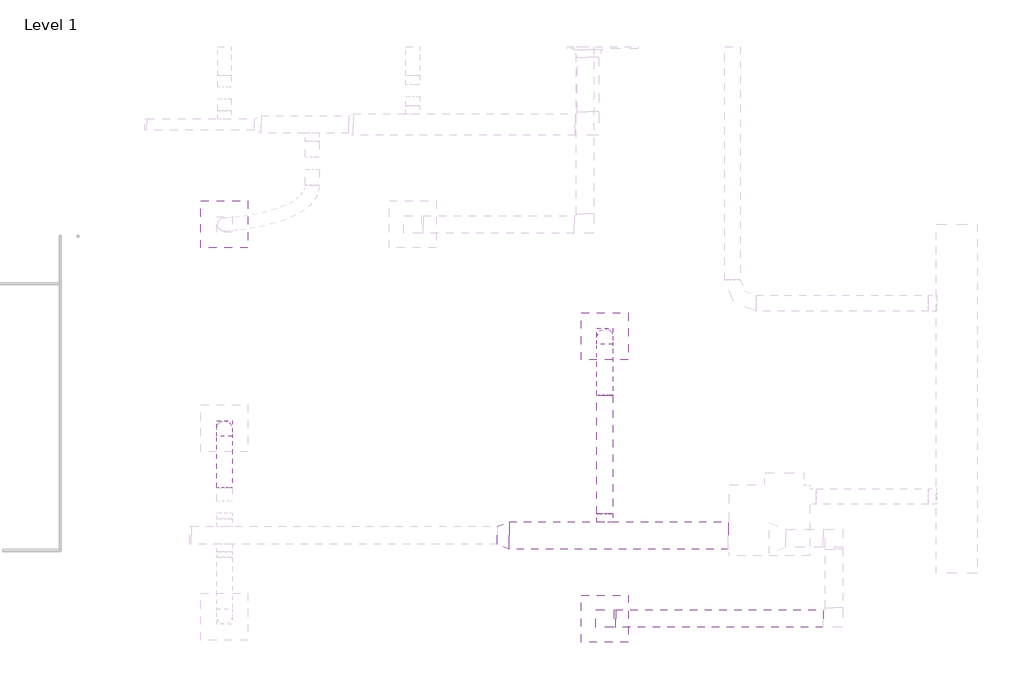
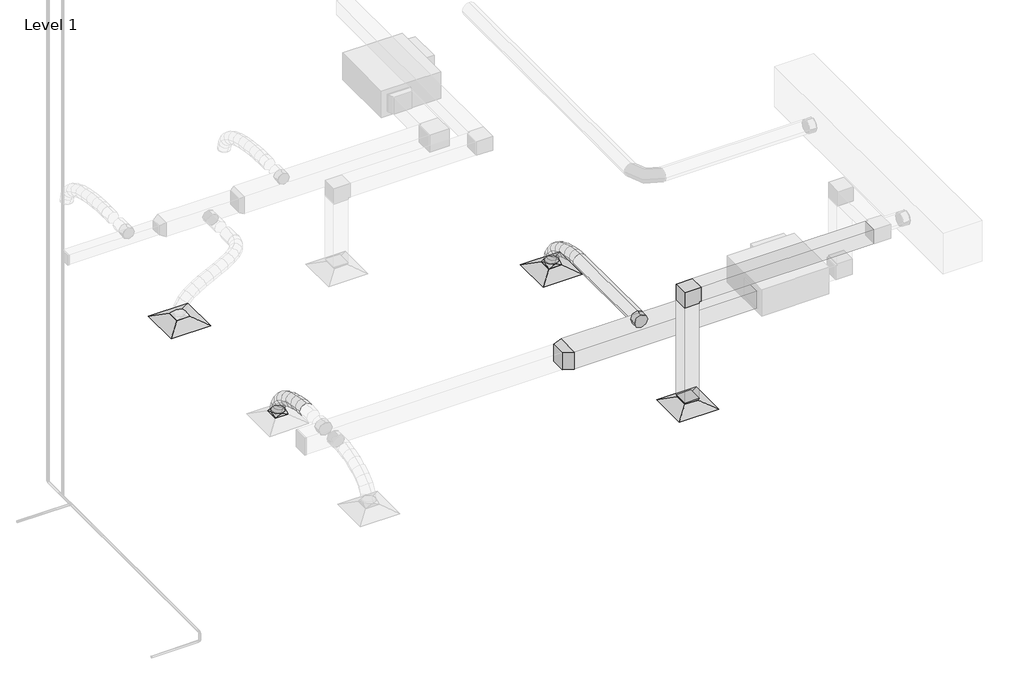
# One storey, part 3 of 7: 6 duct fittings, 6 duct segments, 3 air terminals.
"""IFC4 building model written with IfcOpenShell, lengths in millimetres."""

from ifc_helpers import new_model, si_unit, point, frame, frame_2d, origin, place, context, project, spatial, polyline, circle_curve, ellipse_curve, trimmed, segment, composite_curve, outline, extrude, transform, mapped, element, save
from ifc_brep_helpers import plane_surface, cylinder_surface, advanced_brep
from components import return_diffuser_24_x_24_face_8_x_8_connection_1cf4ec6c, return_diffuser_24_x_24_face_8_x_8_connection_c93705df, rectangular_elbow_mitered_standard_02695c2b, rectangular_transition_angle_45_degree_83d662b3, rectangular_transition_angle_45_degree_493713ce, rectangular_to_round_transition_angle_45_degree_5a025447, round_takeoff_standard_d3b0d0f9

model = new_model("IFC4")

# Units and contexts
model_context = context("Model", 3, world=origin())
ifc_project = project(units=[si_unit("LENGTHUNIT", "METRE", prefix="MILLI")], contexts=[model_context])

# Site, building, storey
site = spatial("IfcSite", under=ifc_project)
building = spatial("IfcBuilding", under=site)
storey = spatial("IfcBuildingStorey", under=building, Name="Level 1", Elevation=0.0)

# Air terminals
placement = place(None, origin())
return_diffuser_24_x_24_face_8_x_8_connection_shape = return_diffuser_24_x_24_face_8_x_8_connection_1cf4ec6c(model_context)
element("IfcAirTerminal", 1, ObjectType="Return Diffuser : 24 x 24 Face 8 x 8 Connection", at=placement, inside=storey, context=model_context, shape_type="MappedRepresentation", body=[
    mapped(return_diffuser_24_x_24_face_8_x_8_connection_shape, transform((-9692.725255, 8073.8737109, 2438.4), x_axis=(1.0, 0.0, 0.0), y_axis=(0.0, 1.0, 0.0), z_axis=(0.0, 0.0, 1.0))),
])
element("IfcAirTerminal", 2, ObjectType="Supply Diffuser : 24 x 24 Face 8 x 8 Connection", at=placement, inside=storey, context=model_context, shape_type="MappedRepresentation", body=[
    mapped(return_diffuser_24_x_24_face_8_x_8_connection_shape, transform((-14620.325255, 13180.8612109, 2438.4), x_axis=(1.0, 0.0, 0.0), y_axis=(0.0, 1.0, 0.0), z_axis=(0.0, 0.0, 1.0))),
])
return_diffuser_24_x_24_face_8_x_8_connection_2_shape = return_diffuser_24_x_24_face_8_x_8_connection_c93705df(model_context)
element("IfcAirTerminal", 3, ObjectType="Supply Diffuser : 24 x 24 Face 8 x 8 Connection", at=placement, inside=storey, context=model_context, shape_type="MappedRepresentation", body=[
    mapped(return_diffuser_24_x_24_face_8_x_8_connection_2_shape, transform((-9692.725255, 11731.4737109, 2438.4), x_axis=(1.0, 0.0, 0.0), y_axis=(0.0, 1.0, 0.0), z_axis=(0.0, 0.0, 1.0))),
])

# Duct fittings
rectangular_elbow_mitered_standard_shape = rectangular_elbow_mitered_standard_02695c2b(model_context)
element("IfcDuctFitting", 4, ObjectType="Rectangular Elbow - Mitered : Standard", at=placement, inside=storey, context=model_context, shape_type="MappedRepresentation", body=[
    mapped(rectangular_elbow_mitered_standard_shape, transform((-9692.725255, 8073.8737109, 4267.2), x_axis=(-1.0, 0.0, 0.0), y_axis=(0.0, 0.0, -1.0), z_axis=(0.0, -1.0, 0.0))),
])
rectangular_transition_angle_45_degree_shape = rectangular_transition_angle_45_degree_83d662b3(model_context)
element("IfcDuctFitting", 5, ObjectType="Rectangular Transition - Angle : 45 Degree", at=placement, inside=storey, context=model_context, shape_type="MappedRepresentation", body=[
    mapped(rectangular_transition_angle_45_degree_shape, transform((-9692.725255, 8073.8737109, 2571.143355), x_axis=(0.0, 0.0, -1.0), y_axis=(-1.0, 0.0, 0.0), z_axis=(0.0, 1.0, 0.0))),
])
rectangular_transition_angle_45_degree_2_shape = rectangular_transition_angle_45_degree_493713ce(model_context)
element("IfcDuctFitting", 6, ObjectType="Rectangular Transition - Angle : 45 Degree", at=placement, inside=storey, context=model_context, shape_type="MappedRepresentation", body=[
    mapped(rectangular_transition_angle_45_degree_2_shape, transform((-11083.4021344, 9153.5998073, 3048.0), x_axis=(1.0, 0.0, 0.0), y_axis=(0.0, 1.0, 0.0), z_axis=(0.0, 0.0, 1.0))),
])
rectangular_to_round_transition_angle_45_degree_shape = rectangular_to_round_transition_angle_45_degree_5a025447(model_context)
element("IfcDuctFitting", 7, ObjectType="Rectangular to Round Transition - Angle : 45 Degree", at=placement, inside=storey, context=model_context, shape_type="MappedRepresentation", body=[
    mapped(rectangular_to_round_transition_angle_45_degree_shape, transform((-14620.325255, 10539.2612109, 2540.0), x_axis=(0.0, 0.0, 1.0), y_axis=(-1.0, 0.0, 0.0), z_axis=(0.0, -1.0, 0.0))),
])
element("IfcDuctFitting", 8, ObjectType="Rectangular to Round Transition - Angle : 45 Degree", at=placement, inside=storey, context=model_context, shape_type="MappedRepresentation", body=[
    mapped(rectangular_to_round_transition_angle_45_degree_shape, transform((-9692.725255, 11731.4737109, 2540.0), x_axis=(0.0, 0.0, 1.0), y_axis=(-1.0, 0.0, 0.0), z_axis=(0.0, -1.0, 0.0))),
])
round_takeoff_standard_shape = round_takeoff_standard_d3b0d0f9(model_context)
element("IfcDuctFitting", 9, ObjectType="Round Takeoff : Standard", at=placement, inside=storey, context=model_context, shape_type="MappedRepresentation", body=[
    mapped(round_takeoff_standard_shape, transform((-9692.725255, 9331.3998073, 3048.0), x_axis=(0.0, 1.0, 0.0), y_axis=(1.0, 0.0, 0.0), z_axis=(0.0, 0.0, -1.0))),
])

# Duct segments
element("IfcDuctSegment", 10, ObjectType="Flex - Round", at=placement, inside=storey, context=model_context, shape_type="AdvancedBrep", body=[
    advanced_brep(
    [(-14518.725255, 10539.2612109, 2590.8), (-14620.325255, 10437.6612109, 2590.8), (-14721.925255, 10539.2612109, 2590.8), (-14620.325255, 10640.8612109, 2590.8), (-14518.725255, 10539.2612109, 2610.4697047), (-14620.325255, 10437.6612109, 2598.3124144), (-14721.925255, 10539.2612109, 2610.4697047), (-14620.325255, 10640.8612109, 2622.626995), (-14518.725255, 10518.5310786, 2695.8515957), (-14620.325255, 10423.650098, 2656.0204548), (-14721.925255, 10518.5310786, 2695.8515957), (-14620.325255, 10613.4120592, 2735.6827365), (-14518.725255, 10461.3436602, 2787.7324467), (-14620.325255, 10382.5248355, 2722.0948506), (-14721.925255, 10461.3436602, 2787.7324467), (-14620.325255, 10540.1624848, 2853.3700428), (-14518.725255, 10375.2034234, 2866.1848403), (-14620.325255, 10314.2087929, 2784.3138235), (-14721.925255, 10375.2034234, 2866.1848403), (-14620.325255, 10436.1980538, 2948.0558571), (-14518.725255, 10267.6148358, 2930.9510637), (-14620.325255, 10221.5720169, 2840.0793491), (-14721.925255, 10267.6148358, 2930.9510637), (-14620.325255, 10313.6576548, 3021.8227783), (-14518.725255, 10146.0823654, 2981.7734042), (-14620.325255, 10112.3915687, 2885.7363319), (-14721.925255, 10146.0823654, 2981.7734042), (-14620.325255, 10179.773162, 3077.8104765), (-14518.725255, 10018.1104796, 3018.3941489), (-14620.325255, 9995.3318541, 2919.2344233), (-14721.925255, 10018.1104796, 3018.3941489), (-14620.325255, 10040.8891051, 3117.5538745), (-14518.725255, 9891.2036464, 3040.5555851), (-14620.325255, 9879.0600282, 2939.5386936), (-14721.925255, 9891.2036464, 3040.5555851), (-14620.325255, 9903.3472646, 3141.5724766), (-14518.725255, 9779.2452204, 3048.0), (-14620.325255, 9775.871118, 2946.4), (-14721.925255, 9779.2452204, 3048.0), (-14620.325255, 9782.6193228, 3149.6), (-14518.725255, 9772.8663333, 3048.0), (-14620.325255, 9772.8663333, 2946.4), (-14721.925255, 9772.8663333, 3048.0), (-14620.325255, 9772.8663333, 3149.6)],
    [
        (0, 1, circle_curve(frame((-14620.325255, 10539.2612109, 2590.8), z_axis=(0.0, 0.0, -1.0), x_axis=(1.0, 0.0, 0.0)), 101.6)),
        (1, 2, circle_curve(frame((-14620.325255, 10539.2612109, 2590.8), z_axis=(0.0, 0.0, -1.0), x_axis=(1.0, 0.0, 0.0)), 101.6)),
        (2, 3, circle_curve(frame((-14620.325255, 10539.2612109, 2590.8), z_axis=(0.0, 0.0, -1.0), x_axis=(1.0, 0.0, 0.0)), 101.6)),
        (3, 0, circle_curve(frame((-14620.325255, 10539.2612109, 2590.8), z_axis=(0.0, 0.0, -1.0), x_axis=(1.0, 0.0, 0.0)), 101.6)),
        (0, 4),
        (4, 5, ellipse_curve(frame((-14620.325255, 10539.2612109, 2610.4697047), z_axis=(0.0, 0.11881081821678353, -0.9929169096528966), x_axis=(0.0, -0.9929169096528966, -0.11881081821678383)), 102.3247756, 101.6)),
        (5, 1),
        (5, 6, ellipse_curve(frame((-14620.325255, 10539.2612109, 2610.4697047), z_axis=(0.0, 0.11881081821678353, -0.9929169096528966), x_axis=(0.0, -0.9929169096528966, -0.11881081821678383)), 102.3247756, 101.6)),
        (6, 2),
        (6, 7, ellipse_curve(frame((-14620.325255, 10539.2612109, 2610.4697047), z_axis=(0.0, 0.11881081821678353, -0.9929169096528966), x_axis=(0.0, -0.9929169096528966, -0.11881081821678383)), 102.3247756, 101.6)),
        (7, 3),
        (7, 4, ellipse_curve(frame((-14620.325255, 10539.2612109, 2610.4697047), z_axis=(0.0, 0.11881081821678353, -0.9929169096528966), x_axis=(0.0, -0.9929169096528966, -0.11881081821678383)), 102.3247756, 101.6)),
        (4, 8),
        (8, 9, ellipse_curve(frame((-14620.325255, 10518.5310786, 2695.8515957), z_axis=(0.0, 0.38707659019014, -0.9220475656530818), x_axis=(0.0, -0.9220475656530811, -0.3870765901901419)), 102.9024794, 101.6)),
        (9, 5),
        (9, 10, ellipse_curve(frame((-14620.325255, 10518.5310786, 2695.8515957), z_axis=(0.0, 0.38707659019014, -0.9220475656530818), x_axis=(0.0, -0.9220475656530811, -0.3870765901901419)), 102.9024794, 101.6)),
        (10, 6),
        (10, 11, ellipse_curve(frame((-14620.325255, 10518.5310786, 2695.8515957), z_axis=(0.0, 0.38707659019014, -0.9220475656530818), x_axis=(0.0, -0.9220475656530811, -0.3870765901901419)), 102.9024794, 101.6)),
        (11, 7),
        (11, 8, ellipse_curve(frame((-14620.325255, 10518.5310786, 2695.8515957), z_axis=(0.0, 0.38707659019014, -0.9220475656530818), x_axis=(0.0, -0.9220475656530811, -0.3870765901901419)), 102.9024794, 101.6)),
        (8, 12),
        (12, 13, ellipse_curve(frame((-14620.325255, 10461.3436602, 2787.7324467), z_axis=(0.0, 0.6399268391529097, -0.7684358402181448), x_axis=(0.0, -0.7684358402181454, -0.6399268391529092)), 102.5704692, 101.6)),
        (13, 9),
        (13, 14, ellipse_curve(frame((-14620.325255, 10461.3436602, 2787.7324467), z_axis=(0.0, 0.6399268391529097, -0.7684358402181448), x_axis=(0.0, -0.7684358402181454, -0.6399268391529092)), 102.5704692, 101.6)),
        (14, 10),
        (14, 15, ellipse_curve(frame((-14620.325255, 10461.3436602, 2787.7324467), z_axis=(0.0, 0.6399268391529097, -0.7684358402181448), x_axis=(0.0, -0.7684358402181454, -0.6399268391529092)), 102.5704692, 101.6)),
        (15, 11),
        (15, 12, ellipse_curve(frame((-14620.325255, 10461.3436602, 2787.7324467), z_axis=(0.0, 0.6399268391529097, -0.7684358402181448), x_axis=(0.0, -0.7684358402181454, -0.6399268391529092)), 102.5704692, 101.6)),
        (12, 16),
        (16, 17, ellipse_curve(frame((-14620.325255, 10375.2034234, 2866.1848403), z_axis=(0.0, 0.8019171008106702, -0.5974353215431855), x_axis=(0.0, -0.5974353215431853, -0.8019171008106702)), 102.0941151, 101.6)),
        (17, 13),
        (17, 18, ellipse_curve(frame((-14620.325255, 10375.2034234, 2866.1848403), z_axis=(0.0, 0.8019171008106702, -0.5974353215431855), x_axis=(0.0, -0.5974353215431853, -0.8019171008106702)), 102.0941151, 101.6)),
        (18, 14),
        (18, 19, ellipse_curve(frame((-14620.325255, 10375.2034234, 2866.1848403), z_axis=(0.0, 0.8019171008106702, -0.5974353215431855), x_axis=(0.0, -0.5974353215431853, -0.8019171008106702)), 102.0941151, 101.6)),
        (19, 15),
        (19, 16, ellipse_curve(frame((-14620.325255, 10375.2034234, 2866.1848403), z_axis=(0.0, 0.8019171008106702, -0.5974353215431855), x_axis=(0.0, -0.5974353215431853, -0.8019171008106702)), 102.0941151, 101.6)),
        (16, 20),
        (20, 21, ellipse_curve(frame((-14620.325255, 10267.6148358, 2930.9510637), z_axis=(0.0, 0.892031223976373, -0.4519737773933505), x_axis=(0.0, -0.4519737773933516, -0.8920312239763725)), 101.8705536, 101.6)),
        (21, 17),
        (21, 22, ellipse_curve(frame((-14620.325255, 10267.6148358, 2930.9510637), z_axis=(0.0, 0.892031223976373, -0.4519737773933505), x_axis=(0.0, -0.4519737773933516, -0.8920312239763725)), 101.8705536, 101.6)),
        (22, 18),
        (22, 23, ellipse_curve(frame((-14620.325255, 10267.6148358, 2930.9510637), z_axis=(0.0, 0.892031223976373, -0.4519737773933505), x_axis=(0.0, -0.4519737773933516, -0.8920312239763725)), 101.8705536, 101.6)),
        (23, 19),
        (23, 20, ellipse_curve(frame((-14620.325255, 10267.6148358, 2930.9510637), z_axis=(0.0, 0.892031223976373, -0.4519737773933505), x_axis=(0.0, -0.4519737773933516, -0.8920312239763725)), 101.8705536, 101.6)),
        (20, 24),
        (24, 25, ellipse_curve(frame((-14620.325255, 10146.0823654, 2981.7734042), z_axis=(0.0, 0.94361969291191, -0.3310315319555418), x_axis=(0.0, -0.33103153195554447, -0.943619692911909)), 101.7751887, 101.6)),
        (25, 21),
        (25, 26, ellipse_curve(frame((-14620.325255, 10146.0823654, 2981.7734042), z_axis=(0.0, 0.94361969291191, -0.3310315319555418), x_axis=(0.0, -0.33103153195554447, -0.943619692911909)), 101.7751887, 101.6)),
        (26, 22),
        (26, 27, ellipse_curve(frame((-14620.325255, 10146.0823654, 2981.7734042), z_axis=(0.0, 0.94361969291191, -0.3310315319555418), x_axis=(0.0, -0.33103153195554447, -0.943619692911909)), 101.7751887, 101.6)),
        (27, 23),
        (27, 24, ellipse_curve(frame((-14620.325255, 10146.0823654, 2981.7734042), z_axis=(0.0, 0.94361969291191, -0.3310315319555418), x_axis=(0.0, -0.33103153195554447, -0.943619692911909)), 101.7751887, 101.6)),
        (24, 28),
        (28, 29, ellipse_curve(frame((-14620.325255, 10018.1104796, 3018.3941489), z_axis=(0.0, 0.974615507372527, -0.22388526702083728), x_axis=(0.0, -0.22388526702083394, -0.9746155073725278)), 101.7424049, 101.6)),
        (29, 25),
        (29, 30, ellipse_curve(frame((-14620.325255, 10018.1104796, 3018.3941489), z_axis=(0.0, 0.974615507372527, -0.22388526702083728), x_axis=(0.0, -0.22388526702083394, -0.9746155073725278)), 101.7424049, 101.6)),
        (30, 26),
        (30, 31, ellipse_curve(frame((-14620.325255, 10018.1104796, 3018.3941489), z_axis=(0.0, 0.974615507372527, -0.22388526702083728), x_axis=(0.0, -0.22388526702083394, -0.9746155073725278)), 101.7424049, 101.6)),
        (31, 27),
        (31, 28, ellipse_curve(frame((-14620.325255, 10018.1104796, 3018.3941489), z_axis=(0.0, 0.974615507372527, -0.22388526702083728), x_axis=(0.0, -0.22388526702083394, -0.9746155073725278)), 101.7424049, 101.6)),
        (28, 32),
        (32, 33, ellipse_curve(frame((-14620.325255, 9891.2036464, 3040.5555851), z_axis=(0.0, 0.9928517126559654, -0.11935441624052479), x_axis=(0.0, -0.11935441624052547, -0.9928517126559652)), 101.7441882, 101.6)),
        (33, 29),
        (33, 34, ellipse_curve(frame((-14620.325255, 9891.2036464, 3040.5555851), z_axis=(0.0, 0.9928517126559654, -0.11935441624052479), x_axis=(0.0, -0.11935441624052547, -0.9928517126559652)), 101.7441882, 101.6)),
        (34, 30),
        (34, 35, ellipse_curve(frame((-14620.325255, 9891.2036464, 3040.5555851), z_axis=(0.0, 0.9928517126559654, -0.11935441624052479), x_axis=(0.0, -0.11935441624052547, -0.9928517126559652)), 101.7441882, 101.6)),
        (35, 31),
        (35, 32, ellipse_curve(frame((-14620.325255, 9891.2036464, 3040.5555851), z_axis=(0.0, 0.9928517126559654, -0.11935441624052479), x_axis=(0.0, -0.11935441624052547, -0.9928517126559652)), 101.7441882, 101.6)),
        (32, 36),
        (36, 37, ellipse_curve(frame((-14620.325255, 9779.2452204, 3048.0), z_axis=(0.0, 0.9994490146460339, -0.03319137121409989), x_axis=(0.0, -0.03319137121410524, -0.9994490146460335)), 101.656011, 101.6)),
        (37, 33),
        (37, 38, ellipse_curve(frame((-14620.325255, 9779.2452204, 3048.0), z_axis=(0.0, 0.9994490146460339, -0.03319137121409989), x_axis=(0.0, -0.03319137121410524, -0.9994490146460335)), 101.656011, 101.6)),
        (38, 34),
        (38, 39, ellipse_curve(frame((-14620.325255, 9779.2452204, 3048.0), z_axis=(0.0, 0.9994490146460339, -0.03319137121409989), x_axis=(0.0, -0.03319137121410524, -0.9994490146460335)), 101.656011, 101.6)),
        (39, 35),
        (39, 36, ellipse_curve(frame((-14620.325255, 9779.2452204, 3048.0), z_axis=(0.0, 0.9994490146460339, -0.03319137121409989), x_axis=(0.0, -0.03319137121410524, -0.9994490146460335)), 101.656011, 101.6)),
        (36, 40),
        (40, 41, circle_curve(frame((-14620.325255, 9772.8663333, 3048.0), z_axis=(0.0, 1.0, 0.0), x_axis=(1.0, 0.0, 0.0)), 101.6)),
        (41, 37),
        (41, 42, circle_curve(frame((-14620.325255, 9772.8663333, 3048.0), z_axis=(0.0, 1.0, 0.0), x_axis=(1.0, 0.0, 0.0)), 101.6)),
        (42, 38),
        (42, 43, circle_curve(frame((-14620.325255, 9772.8663333, 3048.0), z_axis=(0.0, 1.0, 0.0), x_axis=(1.0, 0.0, 0.0)), 101.6)),
        (43, 39),
        (43, 40, circle_curve(frame((-14620.325255, 9772.8663333, 3048.0), z_axis=(0.0, 1.0, 0.0), x_axis=(1.0, 0.0, 0.0)), 101.6)),
    ],
    [
        plane_surface(frame((-14620.325255, 10437.6612109, 2590.8), z_axis=(0.0, 0.0, -1.0), x_axis=(1.0, 0.0, 0.0))),
        cylinder_surface(frame((-14620.325255, 10539.2612109, 2590.8), z_axis=(0.0, 0.0, -1.0), x_axis=(1.0, 0.0, 0.0)), 101.6),
        cylinder_surface(frame((-14620.325255, 10539.2612109, 2610.4697047), z_axis=(0.0, 0.23593854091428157, -0.9717679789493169), x_axis=(1.0, 0.0, 0.0)), 101.6),
        cylinder_surface(frame((-14620.325255, 10518.5310786, 2695.8515957), z_axis=(0.0, 0.5284158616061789, -0.8489856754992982), x_axis=(1.0, 0.0, 0.0)), 101.6),
        cylinder_surface(frame((-14620.325255, 10461.3436602, 2787.7324467), z_axis=(0.0, 0.7393284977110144, -0.6733449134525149), x_axis=(1.0, 0.0, 0.0)), 101.6),
        cylinder_surface(frame((-14620.325255, 10375.2034234, 2866.1848403), z_axis=(0.0, 0.8567434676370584, -0.5157427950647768), x_axis=(1.0, 0.0, 0.0)), 101.6),
        cylinder_surface(frame((-14620.325255, 10267.6148358, 2930.9510637), z_axis=(0.0, 0.9225807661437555, -0.385804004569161), x_axis=(1.0, 0.0, 0.0)), 101.6),
        cylinder_surface(frame((-14620.325255, 10146.0823654, 2981.7734042), z_axis=(0.0, 0.9614100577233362, -0.2751194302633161), x_axis=(1.0, 0.0, 0.0)), 101.6),
        cylinder_surface(frame((-14620.325255, 10018.1104796, 3018.3941489), z_axis=(0.0, 0.9850926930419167, -0.17202437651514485), x_axis=(1.0, 0.0, 0.0)), 101.6),
        cylinder_surface(frame((-14620.325255, 9891.2036464, 3040.5555851), z_axis=(0.0, 0.9977966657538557, -0.0663461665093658), x_axis=(1.0, 0.0, 0.0)), 101.6),
        cylinder_surface(frame((-14620.325255, 9779.2452204, 3048.0), z_axis=(0.0, 1.0, 0.0), x_axis=(1.0, 0.0, 0.0)), 101.6),
        plane_surface(frame((-14721.925255, 9772.8663333, 3048.0), z_axis=(0.0, -1.0, 0.0), x_axis=(0.0, 0.0, -1.0))),
    ],
    [
        (0, [[1, 2, 3, 4]]),
        (1, [[-1, 5, 6, 7]]),
        (1, [[-2, -7, 8, 9]]),
        (1, [[-3, -9, 10, 11]]),
        (1, [[-4, -11, 12, -5]]),
        (2, [[-6, 13, 14, 15]]),
        (2, [[-8, -15, 16, 17]]),
        (2, [[-10, -17, 18, 19]]),
        (2, [[-12, -19, 20, -13]]),
        (3, [[-14, 21, 22, 23]]),
        (3, [[-16, -23, 24, 25]]),
        (3, [[-18, -25, 26, 27]]),
        (3, [[-20, -27, 28, -21]]),
        (4, [[-22, 29, 30, 31]]),
        (4, [[-24, -31, 32, 33]]),
        (4, [[-26, -33, 34, 35]]),
        (4, [[-28, -35, 36, -29]]),
        (5, [[-30, 37, 38, 39]]),
        (5, [[-32, -39, 40, 41]]),
        (5, [[-34, -41, 42, 43]]),
        (5, [[-36, -43, 44, -37]]),
        (6, [[-38, 45, 46, 47]]),
        (6, [[-40, -47, 48, 49]]),
        (6, [[-42, -49, 50, 51]]),
        (6, [[-44, -51, 52, -45]]),
        (7, [[-46, 53, 54, 55]]),
        (7, [[-48, -55, 56, 57]]),
        (7, [[-50, -57, 58, 59]]),
        (7, [[-52, -59, 60, -53]]),
        (8, [[-54, 61, 62, 63]]),
        (8, [[-56, -63, 64, 65]]),
        (8, [[-58, -65, 66, 67]]),
        (8, [[-60, -67, 68, -61]]),
        (9, [[-62, 69, 70, 71]]),
        (9, [[-64, -71, 72, 73]]),
        (9, [[-66, -73, 74, 75]]),
        (9, [[-68, -75, 76, -69]]),
        (10, [[-70, 77, 78, 79]]),
        (10, [[-72, -79, 80, 81]]),
        (10, [[-74, -81, 82, 83]]),
        (10, [[-76, -83, 84, -77]]),
        (11, [[-84, -82, -80, -78]]),
    ],
),
])
element("IfcDuctSegment", 11, ObjectType="Flex - Round", at=placement, inside=storey, context=model_context, shape_type="AdvancedBrep", body=[
    advanced_brep(
    [(-9591.125255, 11731.4737109, 2590.8), (-9692.725255, 11629.8737109, 2590.8), (-9794.325255, 11731.4737109, 2590.8), (-9692.725255, 11833.0737109, 2590.8), (-9591.125255, 11731.4737109, 2610.4697047), (-9692.725255, 11629.8737109, 2598.3124144), (-9794.325255, 11731.4737109, 2610.4697047), (-9692.725255, 11833.0737109, 2622.626995), (-9591.125255, 11710.7435786, 2695.8515957), (-9692.725255, 11615.862598, 2656.0204548), (-9794.325255, 11710.7435786, 2695.8515957), (-9692.725255, 11805.6245592, 2735.6827365), (-9591.125255, 11653.5561602, 2787.7324467), (-9692.725255, 11574.7373355, 2722.0948506), (-9794.325255, 11653.5561602, 2787.7324467), (-9692.725255, 11732.3749848, 2853.3700428), (-9591.125255, 11567.4159234, 2866.1848403), (-9692.725255, 11506.4212929, 2784.3138235), (-9794.325255, 11567.4159234, 2866.1848403), (-9692.725255, 11628.4105538, 2948.0558571), (-9591.125255, 11459.8273358, 2930.9510637), (-9692.725255, 11413.7845169, 2840.0793491), (-9794.325255, 11459.8273358, 2930.9510637), (-9692.725255, 11505.8701548, 3021.8227783), (-9591.125255, 11338.2948654, 2981.7734042), (-9692.725255, 11304.6040687, 2885.7363319), (-9794.325255, 11338.2948654, 2981.7734042), (-9692.725255, 11371.985662, 3077.8104765), (-9591.125255, 11210.3229796, 3018.3941489), (-9692.725255, 11187.5443541, 2919.2344233), (-9794.325255, 11210.3229796, 3018.3941489), (-9692.725255, 11233.1016051, 3117.5538745), (-9591.125255, 11083.4161464, 3040.5555851), (-9692.725255, 11071.2725282, 2939.5386936), (-9794.325255, 11083.4161464, 3040.5555851), (-9692.725255, 11095.5597646, 3141.5724766), (-9591.125255, 10971.4577204, 3048.0), (-9692.725255, 10968.083618, 2946.4), (-9794.325255, 10971.4577204, 3048.0), (-9692.725255, 10974.8318228, 3149.6), (-9591.125255, 10965.0788333, 3048.0), (-9692.725255, 10965.0788333, 2946.4), (-9794.325255, 10965.0788333, 3048.0), (-9692.725255, 10965.0788333, 3149.6)],
    [
        (0, 1, circle_curve(frame((-9692.725255, 11731.4737109, 2590.8), z_axis=(0.0, 0.0, -1.0), x_axis=(1.0, 0.0, 0.0)), 101.6)),
        (1, 2, circle_curve(frame((-9692.725255, 11731.4737109, 2590.8), z_axis=(0.0, 0.0, -1.0), x_axis=(1.0, 0.0, 0.0)), 101.6)),
        (2, 3, circle_curve(frame((-9692.725255, 11731.4737109, 2590.8), z_axis=(0.0, 0.0, -1.0), x_axis=(1.0, 0.0, 0.0)), 101.6)),
        (3, 0, circle_curve(frame((-9692.725255, 11731.4737109, 2590.8), z_axis=(0.0, 0.0, -1.0), x_axis=(1.0, 0.0, 0.0)), 101.6)),
        (0, 4),
        (4, 5, ellipse_curve(frame((-9692.725255, 11731.4737109, 2610.4697047), z_axis=(0.0, 0.11881081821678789, -0.9929169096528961), x_axis=(0.0, -0.9929169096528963, -0.11881081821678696)), 102.3247756, 101.6)),
        (5, 1),
        (5, 6, ellipse_curve(frame((-9692.725255, 11731.4737109, 2610.4697047), z_axis=(0.0, 0.11881081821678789, -0.9929169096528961), x_axis=(0.0, -0.9929169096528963, -0.11881081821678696)), 102.3247756, 101.6)),
        (6, 2),
        (6, 7, ellipse_curve(frame((-9692.725255, 11731.4737109, 2610.4697047), z_axis=(0.0, 0.11881081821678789, -0.9929169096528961), x_axis=(0.0, -0.9929169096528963, -0.11881081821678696)), 102.3247756, 101.6)),
        (7, 3),
        (7, 4, ellipse_curve(frame((-9692.725255, 11731.4737109, 2610.4697047), z_axis=(0.0, 0.11881081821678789, -0.9929169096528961), x_axis=(0.0, -0.9929169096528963, -0.11881081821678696)), 102.3247756, 101.6)),
        (4, 8),
        (8, 9, ellipse_curve(frame((-9692.725255, 11710.7435786, 2695.8515957), z_axis=(0.0, 0.38707659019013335, -0.9220475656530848), x_axis=(0.0, -0.9220475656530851, -0.38707659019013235)), 102.9024794, 101.6)),
        (9, 5),
        (9, 10, ellipse_curve(frame((-9692.725255, 11710.7435786, 2695.8515957), z_axis=(0.0, 0.38707659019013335, -0.9220475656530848), x_axis=(0.0, -0.9220475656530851, -0.38707659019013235)), 102.9024794, 101.6)),
        (10, 6),
        (10, 11, ellipse_curve(frame((-9692.725255, 11710.7435786, 2695.8515957), z_axis=(0.0, 0.38707659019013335, -0.9220475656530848), x_axis=(0.0, -0.9220475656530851, -0.38707659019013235)), 102.9024794, 101.6)),
        (11, 7),
        (11, 8, ellipse_curve(frame((-9692.725255, 11710.7435786, 2695.8515957), z_axis=(0.0, 0.38707659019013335, -0.9220475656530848), x_axis=(0.0, -0.9220475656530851, -0.38707659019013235)), 102.9024794, 101.6)),
        (8, 12),
        (12, 13, ellipse_curve(frame((-9692.725255, 11653.5561602, 2787.7324467), z_axis=(0.0, 0.6399268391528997, -0.7684358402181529), x_axis=(0.0, -0.7684358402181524, -0.6399268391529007)), 102.5704692, 101.6)),
        (13, 9),
        (13, 14, ellipse_curve(frame((-9692.725255, 11653.5561602, 2787.7324467), z_axis=(0.0, 0.6399268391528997, -0.7684358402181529), x_axis=(0.0, -0.7684358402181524, -0.6399268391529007)), 102.5704692, 101.6)),
        (14, 10),
        (14, 15, ellipse_curve(frame((-9692.725255, 11653.5561602, 2787.7324467), z_axis=(0.0, 0.6399268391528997, -0.7684358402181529), x_axis=(0.0, -0.7684358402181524, -0.6399268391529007)), 102.5704692, 101.6)),
        (15, 11),
        (15, 12, ellipse_curve(frame((-9692.725255, 11653.5561602, 2787.7324467), z_axis=(0.0, 0.6399268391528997, -0.7684358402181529), x_axis=(0.0, -0.7684358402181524, -0.6399268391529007)), 102.5704692, 101.6)),
        (12, 16),
        (16, 17, ellipse_curve(frame((-9692.725255, 11567.4159234, 2866.1848403), z_axis=(0.0, 0.8019171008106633, -0.5974353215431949), x_axis=(0.0, -0.597435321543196, -0.8019171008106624)), 102.0941151, 101.6)),
        (17, 13),
        (17, 18, ellipse_curve(frame((-9692.725255, 11567.4159234, 2866.1848403), z_axis=(0.0, 0.8019171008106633, -0.5974353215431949), x_axis=(0.0, -0.597435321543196, -0.8019171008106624)), 102.0941151, 101.6)),
        (18, 14),
        (18, 19, ellipse_curve(frame((-9692.725255, 11567.4159234, 2866.1848403), z_axis=(0.0, 0.8019171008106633, -0.5974353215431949), x_axis=(0.0, -0.597435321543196, -0.8019171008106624)), 102.0941151, 101.6)),
        (19, 15),
        (19, 16, ellipse_curve(frame((-9692.725255, 11567.4159234, 2866.1848403), z_axis=(0.0, 0.8019171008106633, -0.5974353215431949), x_axis=(0.0, -0.597435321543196, -0.8019171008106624)), 102.0941151, 101.6)),
        (16, 20),
        (20, 21, ellipse_curve(frame((-9692.725255, 11459.8273358, 2930.9510637), z_axis=(0.0, 0.8920312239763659, -0.4519737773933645), x_axis=(0.0, -0.45197377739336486, -0.8920312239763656)), 101.8705536, 101.6)),
        (21, 17),
        (21, 22, ellipse_curve(frame((-9692.725255, 11459.8273358, 2930.9510637), z_axis=(0.0, 0.8920312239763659, -0.4519737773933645), x_axis=(0.0, -0.45197377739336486, -0.8920312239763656)), 101.8705536, 101.6)),
        (22, 18),
        (22, 23, ellipse_curve(frame((-9692.725255, 11459.8273358, 2930.9510637), z_axis=(0.0, 0.8920312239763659, -0.4519737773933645), x_axis=(0.0, -0.45197377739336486, -0.8920312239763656)), 101.8705536, 101.6)),
        (23, 19),
        (23, 20, ellipse_curve(frame((-9692.725255, 11459.8273358, 2930.9510637), z_axis=(0.0, 0.8920312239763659, -0.4519737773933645), x_axis=(0.0, -0.45197377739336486, -0.8920312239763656)), 101.8705536, 101.6)),
        (20, 24),
        (24, 25, ellipse_curve(frame((-9692.725255, 11338.2948654, 2981.7734042), z_axis=(0.0, 0.9436196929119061, -0.3310315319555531), x_axis=(0.0, -0.3310315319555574, -0.9436196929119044)), 101.7751887, 101.6)),
        (25, 21),
        (25, 26, ellipse_curve(frame((-9692.725255, 11338.2948654, 2981.7734042), z_axis=(0.0, 0.9436196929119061, -0.3310315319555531), x_axis=(0.0, -0.3310315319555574, -0.9436196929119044)), 101.7751887, 101.6)),
        (26, 22),
        (26, 27, ellipse_curve(frame((-9692.725255, 11338.2948654, 2981.7734042), z_axis=(0.0, 0.9436196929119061, -0.3310315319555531), x_axis=(0.0, -0.3310315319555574, -0.9436196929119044)), 101.7751887, 101.6)),
        (27, 23),
        (27, 24, ellipse_curve(frame((-9692.725255, 11338.2948654, 2981.7734042), z_axis=(0.0, 0.9436196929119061, -0.3310315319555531), x_axis=(0.0, -0.3310315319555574, -0.9436196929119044)), 101.7751887, 101.6)),
        (24, 28),
        (28, 29, ellipse_curve(frame((-9692.725255, 11210.3229796, 3018.3941489), z_axis=(0.0, 0.9746155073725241, -0.2238852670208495), x_axis=(0.0, -0.22388526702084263, -0.9746155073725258)), 101.7424049, 101.6)),
        (29, 25),
        (29, 30, ellipse_curve(frame((-9692.725255, 11210.3229796, 3018.3941489), z_axis=(0.0, 0.9746155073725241, -0.2238852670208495), x_axis=(0.0, -0.22388526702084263, -0.9746155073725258)), 101.7424049, 101.6)),
        (30, 26),
        (30, 31, ellipse_curve(frame((-9692.725255, 11210.3229796, 3018.3941489), z_axis=(0.0, 0.9746155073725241, -0.2238852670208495), x_axis=(0.0, -0.22388526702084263, -0.9746155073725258)), 101.7424049, 101.6)),
        (31, 27),
        (31, 28, ellipse_curve(frame((-9692.725255, 11210.3229796, 3018.3941489), z_axis=(0.0, 0.9746155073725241, -0.2238852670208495), x_axis=(0.0, -0.22388526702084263, -0.9746155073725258)), 101.7424049, 101.6)),
        (28, 32),
        (32, 33, ellipse_curve(frame((-9692.725255, 11083.4161464, 3040.5555851), z_axis=(0.0, 0.9928517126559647, -0.11935441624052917), x_axis=(0.0, -0.11935441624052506, -0.9928517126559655)), 101.7441882, 101.6)),
        (33, 29),
        (33, 34, ellipse_curve(frame((-9692.725255, 11083.4161464, 3040.5555851), z_axis=(0.0, 0.9928517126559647, -0.11935441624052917), x_axis=(0.0, -0.11935441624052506, -0.9928517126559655)), 101.7441882, 101.6)),
        (34, 30),
        (34, 35, ellipse_curve(frame((-9692.725255, 11083.4161464, 3040.5555851), z_axis=(0.0, 0.9928517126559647, -0.11935441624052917), x_axis=(0.0, -0.11935441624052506, -0.9928517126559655)), 101.7441882, 101.6)),
        (35, 31),
        (35, 32, ellipse_curve(frame((-9692.725255, 11083.4161464, 3040.5555851), z_axis=(0.0, 0.9928517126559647, -0.11935441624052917), x_axis=(0.0, -0.11935441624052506, -0.9928517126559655)), 101.7441882, 101.6)),
        (32, 36),
        (36, 37, ellipse_curve(frame((-9692.725255, 10971.4577204, 3048.0), z_axis=(0.0, 0.9994490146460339, -0.033191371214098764), x_axis=(0.0, -0.033191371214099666, -0.9994490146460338)), 101.656011, 101.6)),
        (37, 33),
        (37, 38, ellipse_curve(frame((-9692.725255, 10971.4577204, 3048.0), z_axis=(0.0, 0.9994490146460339, -0.033191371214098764), x_axis=(0.0, -0.033191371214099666, -0.9994490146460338)), 101.656011, 101.6)),
        (38, 34),
        (38, 39, ellipse_curve(frame((-9692.725255, 10971.4577204, 3048.0), z_axis=(0.0, 0.9994490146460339, -0.033191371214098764), x_axis=(0.0, -0.033191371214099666, -0.9994490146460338)), 101.656011, 101.6)),
        (39, 35),
        (39, 36, ellipse_curve(frame((-9692.725255, 10971.4577204, 3048.0), z_axis=(0.0, 0.9994490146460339, -0.033191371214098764), x_axis=(0.0, -0.033191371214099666, -0.9994490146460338)), 101.656011, 101.6)),
        (36, 40),
        (40, 41, circle_curve(frame((-9692.725255, 10965.0788333, 3048.0), z_axis=(0.0, 1.0, 0.0), x_axis=(1.0, 0.0, 0.0)), 101.6)),
        (41, 37),
        (41, 42, circle_curve(frame((-9692.725255, 10965.0788333, 3048.0), z_axis=(0.0, 1.0, 0.0), x_axis=(1.0, 0.0, 0.0)), 101.6)),
        (42, 38),
        (42, 43, circle_curve(frame((-9692.725255, 10965.0788333, 3048.0), z_axis=(0.0, 1.0, 0.0), x_axis=(1.0, 0.0, 0.0)), 101.6)),
        (43, 39),
        (43, 40, circle_curve(frame((-9692.725255, 10965.0788333, 3048.0), z_axis=(0.0, 1.0, 0.0), x_axis=(1.0, 0.0, 0.0)), 101.6)),
    ],
    [
        plane_surface(frame((-9692.725255, 11629.8737109, 2590.8), z_axis=(0.0, 0.0, -1.0), x_axis=(1.0, 0.0, 0.0))),
        cylinder_surface(frame((-9692.725255, 11731.4737109, 2590.8), z_axis=(0.0, 0.0, -1.0), x_axis=(1.0, 0.0, 0.0)), 101.6),
        cylinder_surface(frame((-9692.725255, 11731.4737109, 2610.4697047), z_axis=(0.0, 0.23593854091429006, -0.9717679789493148), x_axis=(1.0, 0.0, 0.0)), 101.6),
        cylinder_surface(frame((-9692.725255, 11710.7435786, 2695.8515957), z_axis=(0.0, 0.528415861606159, -0.8489856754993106), x_axis=(1.0, 0.0, 0.0)), 101.6),
        cylinder_surface(frame((-9692.725255, 11653.5561602, 2787.7324467), z_axis=(0.0, 0.7393284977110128, -0.6733449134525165), x_axis=(1.0, 0.0, 0.0)), 101.6),
        cylinder_surface(frame((-9692.725255, 11567.4159234, 2866.1848403), z_axis=(0.0, 0.8567434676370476, -0.5157427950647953), x_axis=(1.0, 0.0, 0.0)), 101.6),
        cylinder_surface(frame((-9692.725255, 11459.8273358, 2930.9510637), z_axis=(0.0, 0.9225807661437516, -0.38580400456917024), x_axis=(1.0, 0.0, 0.0)), 101.6),
        cylinder_surface(frame((-9692.725255, 11338.2948654, 2981.7734042), z_axis=(0.0, 0.9614100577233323, -0.2751194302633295), x_axis=(1.0, 0.0, 0.0)), 101.6),
        cylinder_surface(frame((-9692.725255, 11210.3229796, 3018.3941489), z_axis=(0.0, 0.9850926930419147, -0.1720243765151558), x_axis=(1.0, 0.0, 0.0)), 101.6),
        cylinder_surface(frame((-9692.725255, 11083.4161464, 3040.5555851), z_axis=(0.0, 0.9977966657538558, -0.06634616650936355), x_axis=(1.0, 0.0, 0.0)), 101.6),
        cylinder_surface(frame((-9692.725255, 10971.4577204, 3048.0), z_axis=(0.0, 1.0, 0.0), x_axis=(1.0, 0.0, 0.0)), 101.6),
        plane_surface(frame((-9794.325255, 10965.0788333, 3048.0), z_axis=(0.0, -1.0, 0.0), x_axis=(0.0, 0.0, -1.0))),
    ],
    [
        (0, [[1, 2, 3, 4]]),
        (1, [[-1, 5, 6, 7]]),
        (1, [[-2, -7, 8, 9]]),
        (1, [[-3, -9, 10, 11]]),
        (1, [[-4, -11, 12, -5]]),
        (2, [[-6, 13, 14, 15]]),
        (2, [[-8, -15, 16, 17]]),
        (2, [[-10, -17, 18, 19]]),
        (2, [[-12, -19, 20, -13]]),
        (3, [[-14, 21, 22, 23]]),
        (3, [[-16, -23, 24, 25]]),
        (3, [[-18, -25, 26, 27]]),
        (3, [[-20, -27, 28, -21]]),
        (4, [[-22, 29, 30, 31]]),
        (4, [[-24, -31, 32, 33]]),
        (4, [[-26, -33, 34, 35]]),
        (4, [[-28, -35, 36, -29]]),
        (5, [[-30, 37, 38, 39]]),
        (5, [[-32, -39, 40, 41]]),
        (5, [[-34, -41, 42, 43]]),
        (5, [[-36, -43, 44, -37]]),
        (6, [[-38, 45, 46, 47]]),
        (6, [[-40, -47, 48, 49]]),
        (6, [[-42, -49, 50, 51]]),
        (6, [[-44, -51, 52, -45]]),
        (7, [[-46, 53, 54, 55]]),
        (7, [[-48, -55, 56, 57]]),
        (7, [[-50, -57, 58, 59]]),
        (7, [[-52, -59, 60, -53]]),
        (8, [[-54, 61, 62, 63]]),
        (8, [[-56, -63, 64, 65]]),
        (8, [[-58, -65, 66, 67]]),
        (8, [[-60, -67, 68, -61]]),
        (9, [[-62, 69, 70, 71]]),
        (9, [[-64, -71, 72, 73]]),
        (9, [[-66, -73, 74, 75]]),
        (9, [[-68, -75, 76, -69]]),
        (10, [[-70, 77, 78, 79]]),
        (10, [[-72, -79, 80, 81]]),
        (10, [[-74, -81, 82, 83]]),
        (10, [[-76, -83, 84, -77]]),
        (11, [[-84, -82, -80, -78]]),
    ],
),
])
element("IfcDuctSegment", 12, ObjectType="Mitered Elbows / Tees", at=placement, inside=storey, context=model_context, shape_type="SweptSolid", body=[
    extrude(outline(polyline([(-8090.937755, 9331.3998073), (-8090.937755, 8975.7998073), (-10930.5824159, 8975.7998073), (-10930.5824159, 9331.3998073), (-8090.937755, 9331.3998073)])), frame((0.0, 0.0, 2908.3), z_axis=(0.0, 0.0, 1.0), x_axis=(1.0, 0.0, 0.0)), (0.0, 0.0, 1.0), 279.4),
])
element("IfcDuctSegment", 13, ObjectType="Mitered Elbows / Tees", at=placement, inside=storey, context=model_context, shape_type="SweptSolid", body=[
    extrude(outline(polyline([(-9807.225255, 7959.3737109), (-9807.225255, 8188.3737109), (-9578.225255, 8188.3737109), (-9578.225255, 7959.3737109), (-9807.225255, 7959.3737109)])), frame((0.0, 0.0, 2571.143355), z_axis=(0.0, 0.0, 1.0), x_axis=(1.0, 0.0, 0.0)), (0.0, 0.0, 1.0), 1556.156645),
])
element("IfcDuctSegment", 14, ObjectType="Mitered Elbows / Tees", at=placement, inside=storey, context=model_context, shape_type="SweptSolid", body=[
    extrude(outline(polyline([(-6864.4351062, 8188.3737109), (-6864.4351062, 7959.3737109), (-9552.825255, 7959.3737109), (-9552.825255, 8188.3737109), (-6864.4351062, 8188.3737109)])), frame((0.0, 0.0, 4152.7), z_axis=(0.0, 0.0, 1.0), x_axis=(1.0, 0.0, 0.0)), (0.0, 0.0, 1.0), 229.0),
])
element("IfcDuctSegment", 15, ObjectType="Taps", at=placement, inside=storey, context=model_context, shape_type="SweptSolid", body=[
    extrude(outline(composite_curve([segment(trimmed(circle_curve(frame_2d((3048.0, -9692.725255)), 101.6), [point((3048.0, -9591.125255))], [point((3149.6, -9692.725255))], False, "CARTESIAN"), True, "CONTINUOUS"), segment(trimmed(circle_curve(frame_2d((3048.0, -9692.725255)), 101.6), [point((3149.6, -9692.725255))], [point((3048.0, -9794.325255))], False, "CARTESIAN"), True, "CONTINUOUS"), segment(trimmed(circle_curve(frame_2d((3048.0, -9692.725255)), 101.6), [point((3048.0, -9794.325255))], [point((2946.4, -9692.725255))], False, "CARTESIAN"), True, "CONTINUOUS"), segment(trimmed(circle_curve(frame_2d((3048.0, -9692.725255)), 101.6), [point((2946.4, -9692.725255))], [point((3048.0, -9591.125255))], False, "CARTESIAN"), True, "CONTINUOUS")], self_intersect=False)), frame((0.0, 9432.9998073, 0.0), z_axis=(0.0, 1.0, 0.0), x_axis=(0.0, 0.0, 1.0)), (0.0, 0.0, 1.0), 1532.079026),
])

save(model, "model.ifc")
